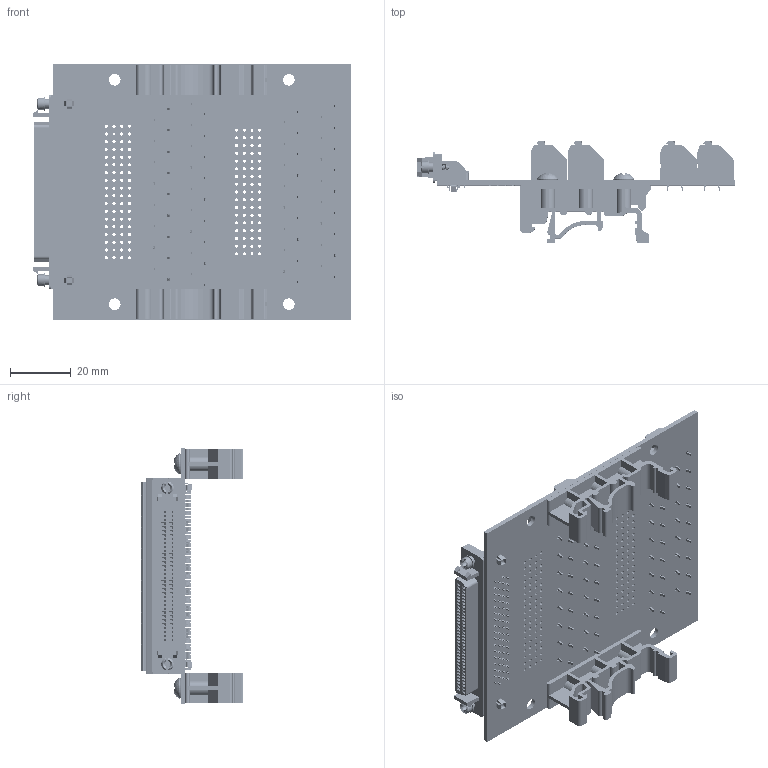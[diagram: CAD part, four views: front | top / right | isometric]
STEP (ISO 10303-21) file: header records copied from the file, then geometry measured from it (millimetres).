
FILE_DESCRIPTION (( 'STEP AP214' ), '1' );
FILE_NAME ('brkgdp68fv1-r-din_rev_a.step', '2022-12-19T14:51:06', ( '' ), ( '' ), 'SwSTEP 2.0', 'SolidWorks 2018', '' );
FILE_SCHEMA (( 'AUTOMOTIVE_DESIGN' ));
Length unit declared in the file: inch
Products named in the file (8): Jack Socket Flat; Spring Terminal 17 Position_Screw Terminal_17 Positions; brkgdp68fv1-r_PCB; Spring Terminal 18 Position_Screw Terminal_18 Positions; brkgdp68fv1-r-din_rev_a; SCSMPP-6-0.375_SCSMPP-6-0.375; HPDB Right Angle Female 68 Pin; dinm01
Assembly tree (14 placements, depth 2):
  brkgdp68fv1-r-din_rev_a
    brkgdp68fv1-r_PCB
    HPDB Right Angle Female 68 Pin
    Spring Terminal 18 Position_Screw Terminal_18 Positions
    Spring Terminal 17 Position_Screw Terminal_17 Positions  x3
    Jack Socket Flat  x2
    dinm01  x2
    SCSMPP-6-0.375_SCSMPP-6-0.375  x4
Bounding box: 104.22 x 33.66 x 83.82 mm (x, y, z)
Volume: 51434 mm3; surface area: 50145.6 mm2
Topology: 14 solids, 14 shells, 11577 faces, 31477 edges, 20590 vertices
Faces by surface type: plane 7017, cylinder 2521, bspline 1626, cone 397, sphere 8, torus 8
Entity records: 435878 total; most frequent: CARTESIAN_POINT 146838, ORIENTED_EDGE 45100, DIRECTION 34996, EDGE_CURVE 22550, VECTOR 15364, LINE 15364, VERTEX_POINT 14752, AXIS2_PLACEMENT_3D 9816
